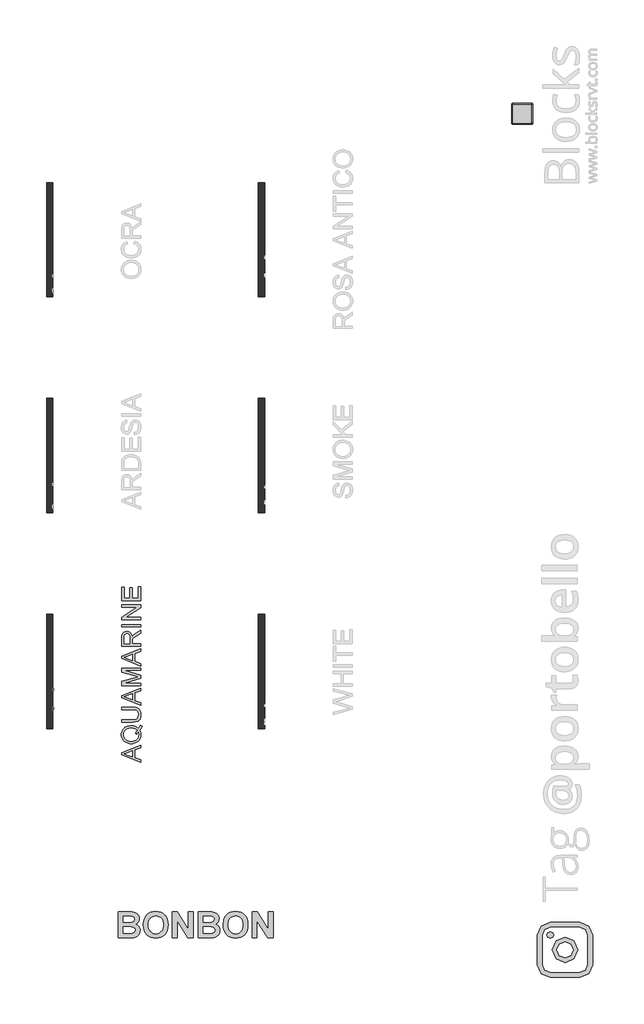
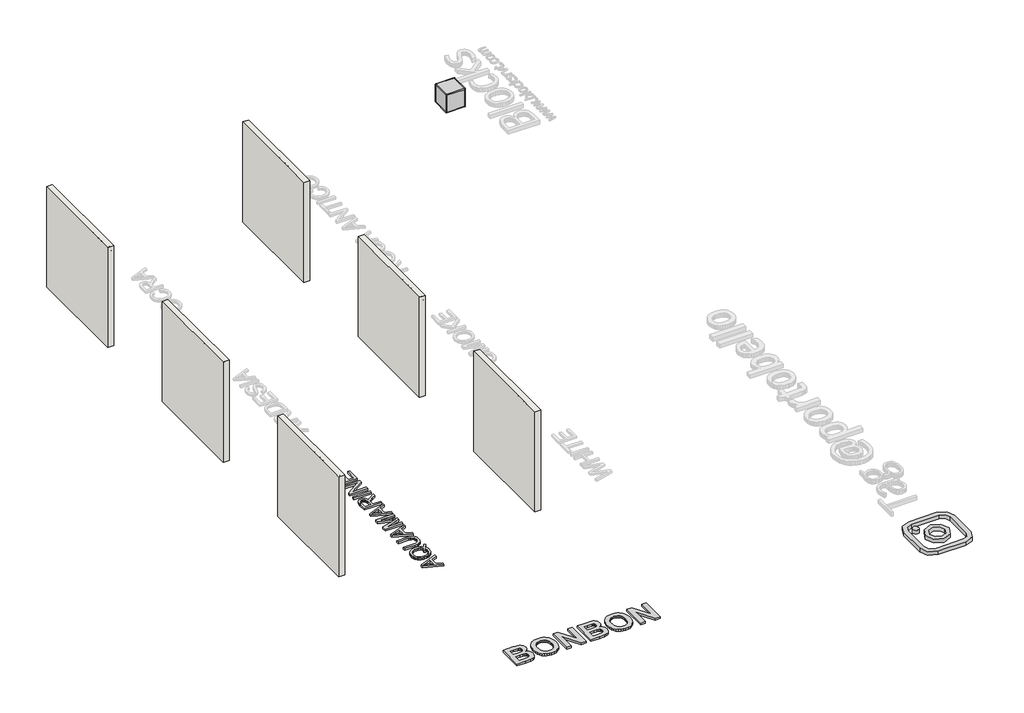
# One storey, part 1 of 6: 6 walls, 5 proxies, 1 furniture element.
"""IFC4 building model written with IfcOpenShell, lengths in millimetres."""

from ifc_helpers import new_model, si_unit, frame, origin, origin_with_axes, place, context, project, spatial, polyline, outline, extrude, transform, mapped, element, save
from components import generic_models_d67f6705, branco_22256ad2

model = new_model("IFC4")

# Units and contexts
model_context = context("Model", 3, world=origin())
ifc_project = project(units=[si_unit("LENGTHUNIT", "METRE", prefix="MILLI")], contexts=[model_context])

# Site, building, storey
site = spatial("IfcSite", under=ifc_project)
building = spatial("IfcBuilding", under=site)
storey = spatial("IfcBuildingStorey", under=building, Name="PORTOBELLO - SHOWROOM", Elevation=0.0)

# Proxies
placement = place(None, origin())
generic_models_shape = generic_models_d67f6705(model_context)
element("IfcBuildingElementProxy", 1, Name="Blks_Instagram1 : Único 2", ObjectType="Blks_Instagram1 : Único 2", at=placement, inside=storey, context=model_context, shape_type="MappedRepresentation", body=[
    mapped(generic_models_shape, transform((-8698.0576195, -6701.2406298, 0.0), x_axis=(-1.0, 0.0, 0.0), y_axis=(0.0, -1.0, 0.0), z_axis=(0.0, 0.0, 1.0))),
])
element("IfcBuildingElementProxy", 2, Name="10mm Arial", ObjectType="10mm Arial", at=placement, inside=storey, context=model_context, shape_type="SweptSolid", body=[
    extrude(outline(polyline([(-1383.7621469, 2478.2261649), (-1343.6630094, 2578.6824751), (-1332.9699061, 2578.6824751), (-1292.8707686, 2478.2261649), (-1306.1390459, 2478.2261649), (-1317.6414896, 2509.6187619), (-1359.0159513, 2509.6187619), (-1370.4938696, 2478.2261649), (-1383.7621469, 2478.2261649)]), holes=[polyline([(-1354.4051637, 2522.1758006), (-1322.2277518, 2522.1758006), (-1331.2776489, 2546.8729452), (-1338.3164578, 2566.1254363), (-1344.5704517, 2549.0311863), (-1354.4051637, 2522.1758006)])]), frame((-20793.2092306, 0.0, 0.0), z_axis=(1.0, 0.0, 0.0), x_axis=(0.0, 1.0, 0.0)), (0.0, 0.0, 1.0), 20.0),
    extrude(outline(polyline([(-1235.5057028, 2449.9728277), (-1235.5057028, 2488.2816061), (-1243.4764794, 2479.967473), (-1254.3657865, 2476.6565351), (-1266.3035572, 2479.2715629), (-1276.4632316, 2487.1166465), (-1283.4162013, 2499.5173354), (-1285.7338579, 2515.7991794), (-1282.055038, 2535.6893326), (-1271.3864601, 2549.0311863), (-1256.0580436, 2553.5683975), (-1244.3839217, 2550.0489931), (-1235.5057028, 2539.4907799), (-1235.5057028, 2551.9987677), (-1222.9486641, 2551.9987677), (-1222.9486641, 2449.9728277), (-1235.5057028, 2449.9728277)]), holes=[polyline([(-1273.1768191, 2515.1124663), (-1271.7635391, 2503.7817009), (-1267.5236991, 2495.688297), (-1261.3095591, 2490.8322546), (-1253.973379, 2489.2135739), (-1246.9437672, 2490.7525469), (-1240.9626191, 2495.3694659), (-1236.8699319, 2503.131776), (-1235.5057028, 2514.1069222), (-1236.9435083, 2525.8392922), (-1241.2569247, 2534.2545928), (-1247.5078529, 2539.3221673), (-1254.7581939, 2541.0113588), (-1261.8736448, 2539.4386632), (-1267.8180047, 2534.7205767), (-1271.8371155, 2526.673158), (-1273.1768191, 2515.1124663)])]), frame((-20793.2092306, 0.0, 0.0), z_axis=(1.0, 0.0, 0.0), x_axis=(0.0, 1.0, 0.0)), (0.0, 0.0, 1.0), 20.0),
    extrude(outline(polyline([(-1157.0242105, 2478.2261649), (-1157.0242105, 2490.905831), (-1166.8589225, 2480.2188591), (-1179.6857414, 2476.6565351), (-1191.4947535, 2479.1581327), (-1199.6372083, 2485.436652), (-1203.3773419, 2494.6827529), (-1204.1131059, 2506.3568748), (-1204.1131059, 2551.9987677), (-1191.5560671, 2551.9987677), (-1191.5560671, 2512.2675122), (-1190.7957777, 2499.4652188), (-1185.8293708, 2491.9481634), (-1176.4729053, 2489.2135739), (-1165.9882685, 2492.009477), (-1159.0598242, 2499.6246343), (-1157.0242105, 2513.6164129), (-1157.0242105, 2551.9987677), (-1144.4671718, 2551.9987677), (-1144.4671718, 2478.2261649), (-1157.0242105, 2478.2261649)])), frame((-20793.2092306, 0.0, 0.0), z_axis=(1.0, 0.0, 0.0), x_axis=(0.0, 1.0, 0.0)), (0.0, 0.0, 1.0), 20.0),
    extrude(outline(polyline([(-1080.1123481, 2487.643944), (-1092.2892421, 2479.1336072), (-1105.7414604, 2476.6565351), (-1116.2352943, 2478.1464572), (-1123.9761446, 2482.6162234), (-1128.7494135, 2489.4036462), (-1130.3405031, 2497.846538), (-1127.9370074, 2507.7793519), (-1121.6216999, 2514.989839), (-1112.8293202, 2519.1101173), (-1101.9645386, 2520.9985782), (-1080.1859245, 2525.3150603), (-1080.1123481, 2528.1109635), (-1083.5704388, 2537.3815898), (-1097.4518528, 2541.0113588), (-1110.1560443, 2538.5956003), (-1116.2138345, 2530.0239499), (-1128.7708733, 2531.5935797), (-1123.3384825, 2543.8563129), (-1112.4001245, 2551.0422745), (-1095.833172, 2553.5683975), (-1080.6151201, 2551.3365801), (-1072.0189442, 2545.7325111), (-1068.168446, 2537.2099115), (-1067.5553093, 2526.2225026), (-1067.5553093, 2510.5997805), (-1066.9176472, 2488.7843782), (-1064.4160496, 2478.2261649), (-1076.9730884, 2478.2261649), (-1080.1123481, 2487.643944)]), holes=[polyline([(-1080.1123481, 2512.7580215), (-1100.3703833, 2508.9075233), (-1111.1738512, 2506.8719096), (-1116.0666817, 2503.5609717), (-1117.7834644, 2498.7294548), (-1114.0433308, 2491.9359006), (-1103.0681846, 2489.2135739), (-1090.363993, 2492.2179435), (-1082.1724872, 2499.4897443), (-1080.1859245, 2509.2018289), (-1080.1123481, 2512.7580215)])]), frame((-20793.2092306, 0.0, 0.0), z_axis=(1.0, 0.0, 0.0), x_axis=(0.0, 1.0, 0.0)), (0.0, 0.0, 1.0), 20.0),
    extrude(outline(polyline([(-1050.289381, 2478.2261649), (-1050.289381, 2551.9987677), (-1037.7323422, 2551.9987677), (-1037.7323422, 2539.8586619), (-1029.0993781, 2549.8037385), (-1016.8121194, 2553.5683975), (-1004.2305552, 2549.7301621), (-997.3143737, 2538.9757451), (-987.5164499, 2549.9202344), (-975.1433521, 2553.5683975), (-965.7041133, 2552.0508843), (-958.7235524, 2547.4983446), (-954.410136, 2539.7881511), (-952.9723305, 2528.7976765), (-952.9723305, 2478.2261649), (-965.5293693, 2478.2261649), (-965.5293693, 2523.4020739), (-966.694329, 2533.8867108), (-970.9127092, 2539.0493215), (-978.0864081, 2541.0113588), (-990.4349804, 2535.9836382), (-994.1229974, 2529.44147), (-995.3523364, 2519.8704068), (-995.3523364, 2478.2261649), (-1007.9093752, 2478.2261649), (-1007.9093752, 2524.8000255), (-1010.8156429, 2536.9646568), (-1020.3437866, 2541.0113588), (-1029.6389383, 2538.3135575), (-1035.8193559, 2530.4163573), (-1037.7323422, 2515.4312974), (-1037.7323422, 2478.2261649), (-1050.289381, 2478.2261649)])), frame((-20793.2092306, 0.0, 0.0), z_axis=(1.0, 0.0, 0.0), x_axis=(0.0, 1.0, 0.0)), (0.0, 0.0, 1.0), 20.0),
    extrude(outline(polyline([(-887.047877, 2487.643944), (-899.224771, 2479.1336072), (-912.6769893, 2476.6565351), (-923.1708232, 2478.1464572), (-930.9116736, 2482.6162234), (-935.6849424, 2489.4036462), (-937.2760321, 2497.846538), (-934.8725364, 2507.7793519), (-928.5572288, 2514.989839), (-919.7648491, 2519.1101173), (-908.9000675, 2520.9985782), (-887.1214534, 2525.3150603), (-887.047877, 2528.1109635), (-890.5059678, 2537.3815898), (-904.3873817, 2541.0113588), (-917.0915733, 2538.5956003), (-923.1493635, 2530.0239499), (-935.7064022, 2531.5935797), (-930.2740114, 2543.8563129), (-919.3356534, 2551.0422745), (-902.7687009, 2553.5683975), (-887.5506491, 2551.3365801), (-878.9544731, 2545.7325111), (-875.1039749, 2537.2099115), (-874.4908382, 2526.2225026), (-874.4908382, 2510.5997805), (-873.8531761, 2488.7843782), (-871.3515785, 2478.2261649), (-883.9086173, 2478.2261649), (-887.047877, 2487.643944)]), holes=[polyline([(-887.047877, 2512.7580215), (-907.3059122, 2508.9075233), (-918.1093801, 2506.8719096), (-923.0022107, 2503.5609717), (-924.7189933, 2498.7294548), (-920.9788597, 2491.9359006), (-910.0037135, 2489.2135739), (-897.2995219, 2492.2179435), (-889.1080162, 2499.4897443), (-887.1214534, 2509.2018289), (-887.047877, 2512.7580215)])]), frame((-20793.2092306, 0.0, 0.0), z_axis=(1.0, 0.0, 0.0), x_axis=(0.0, 1.0, 0.0)), (0.0, 0.0, 1.0), 20.0),
    extrude(outline(polyline([(-857.2249099, 2478.2261649), (-857.2249099, 2551.9987677), (-846.237501, 2551.9987677), (-846.237501, 2541.0849352), (-838.4384027, 2551.1403764), (-830.5902535, 2553.5683975), (-817.9841638, 2549.6933739), (-822.1780185, 2538.4361848), (-831.0071864, 2541.0113588), (-838.1073089, 2538.5342867), (-842.6322575, 2531.6671561), (-844.6678712, 2517.0009272), (-844.6678712, 2478.2261649), (-857.2249099, 2478.2261649)])), frame((-20793.2092306, 0.0, 0.0), z_axis=(1.0, 0.0, 0.0), x_axis=(0.0, 1.0, 0.0)), (0.0, 0.0, 1.0), 20.0),
    extrude(outline(polyline([(-20773.2092306, -797.5789758), (-20773.2092306, -810.1360145), (-20793.2092306, -810.1360145), (-20793.2092306, -797.5789758), (-20773.2092306, -797.5789758)])), frame((0.0, 0.0, 2566.1254363), z_axis=(0.0, 0.0, 1.0), x_axis=(1.0, 0.0, 0.0)), (0.0, 0.0, 1.0), 12.5570388),
    extrude(outline(polyline([(-20773.2092306, -797.5789758), (-20773.2092306, -810.1360145), (-20793.2092306, -810.1360145), (-20793.2092306, -797.5789758), (-20773.2092306, -797.5789758)])), frame((0.0, 0.0, 2478.2261649), z_axis=(0.0, 0.0, 1.0), x_axis=(1.0, 0.0, 0.0)), (0.0, 0.0, 1.0), 73.7726028),
    extrude(outline(polyline([(-778.7434176, 2478.2261649), (-778.7434176, 2551.9987677), (-766.1863789, 2551.9987677), (-766.1863789, 2541.6980718), (-756.5846588, 2550.6008161), (-743.475797, 2553.5683975), (-731.617734, 2551.1771646), (-723.5243301, 2544.8986452), (-719.7596711, 2535.6648071), (-719.0974835, 2523.5247013), (-719.0974835, 2478.2261649), (-731.6545222, 2478.2261649), (-731.6545222, 2521.8324441), (-733.1015248, 2532.9424804), (-738.2150845, 2538.8163295), (-746.8357859, 2541.0113588), (-760.4596825, 2536.08174), (-764.7547048, 2528.938698), (-766.1863789, 2517.3688092), (-766.1863789, 2478.2261649), (-778.7434176, 2478.2261649)])), frame((-20793.2092306, 0.0, 0.0), z_axis=(1.0, 0.0, 0.0), x_axis=(0.0, 1.0, 0.0)), (0.0, 0.0, 1.0), 20.0),
    extrude(outline(polyline([(-650.180923, 2500.2009828), (-637.8691389, 2498.6313529), (-642.3051827, 2489.3545953), (-649.3838454, 2482.4200197), (-658.9457116, 2478.0974062), (-670.8313657, 2476.6565351), (-685.5650396, 2479.1428042), (-696.9019364, 2486.6016117), (-704.1308176, 2498.5485795), (-706.5404447, 2514.4993297), (-704.1062922, 2530.9865744), (-696.8038346, 2543.3167526), (-685.6202219, 2551.0054863), (-671.5426042, 2553.5683975), (-657.9033793, 2551.0116177), (-647.0048752, 2543.3412781), (-639.8587674, 2531.0356253), (-637.4767315, 2514.5729061), (-637.5503079, 2511.1883917), (-693.9834059, 2511.1883917), (-691.8098365, 2501.7890067), (-686.7606561, 2494.8789566), (-679.4735269, 2490.6299195), (-670.586111, 2489.2135739), (-658.2743269, 2491.8377988), (-650.180923, 2500.2009828)]), holes=[polyline([(-693.9834059, 2523.7454305), (-650.0337702, 2523.7454305), (-655.0614908, 2535.1252469), (-662.3823425, 2539.5398308), (-671.5916552, 2541.0113588), (-687.0549617, 2536.314732), (-691.9202011, 2530.8240932), (-693.9834059, 2523.7454305)])]), frame((-20793.2092306, 0.0, 0.0), z_axis=(1.0, 0.0, 0.0), x_axis=(0.0, 1.0, 0.0)), (0.0, 0.0, 1.0), 20.0),
])
element("IfcBuildingElementProxy", 3, Name="10mm Arial Narrow", ObjectType="10mm Arial Narrow", at=placement, inside=storey, context=model_context, shape_type="SweptSolid", body=[
    extrude(outline(polyline([(-579.9284403, 2478.2261649), (-579.9284403, 2578.9447687), (-548.6315556, 2578.9447687), (-532.3358541, 2577.066448), (-520.862868, 2567.5860048), (-516.5731896, 2550.566896), (-518.359498, 2538.4910704), (-523.7184232, 2528.8646767), (-533.462212, 2522.5634182), (-548.4031112, 2520.4629988), (-570.1814787, 2520.4629988), (-570.1814787, 2478.2261649), (-579.9284403, 2478.2261649)]), holes=[polyline([(-570.1814787, 2531.834454), (-547.2101237, 2531.834454), (-531.3459283, 2536.3652682), (-526.3201512, 2550.033859), (-528.7949657, 2560.1996354), (-534.7725945, 2565.9995852), (-547.4385681, 2567.5733134), (-570.1814787, 2567.5733134), (-570.1814787, 2531.834454)])]), frame((-20793.2092306, 0.0, 0.0), z_axis=(1.0, 0.0, 0.0), x_axis=(0.0, 1.0, 0.0)), (0.0, 0.0, 1.0), 20.0),
    extrude(outline(polyline([(-508.4507215, 2514.7772711), (-506.4962527, 2531.3680467), (-500.632846, 2543.3201315), (-491.7742793, 2550.5446861), (-480.8343302, 2552.9528709), (-470.0212946, 2550.5446861), (-461.1373452, 2543.3201315), (-455.1977904, 2531.558417), (-453.2179388, 2515.5387525), (-455.1628892, 2498.3768659), (-460.9977403, 2486.2344108), (-469.8467884, 2479.0098562), (-480.8343302, 2476.6016713), (-491.6949583, 2479.0162019), (-500.5693893, 2486.2597935), (-506.4803885, 2498.218224), (-508.4507215, 2514.7772711)]), holes=[polyline([(-498.7037599, 2514.8026538), (-497.399723, 2502.2509024), (-493.4876124, 2493.3796444), (-487.6464157, 2488.1063858), (-480.5551203, 2486.348633), (-473.8350472, 2488.12225), (-468.1429739, 2493.4431012), (-464.2594188, 2502.3302234), (-462.9649005, 2514.8026538), (-464.2689373, 2527.3163312), (-468.1810479, 2536.1748979), (-474.0222447, 2541.4481564), (-481.11354, 2543.2059093), (-487.8812058, 2541.4386379), (-493.5637606, 2536.1368238), (-497.41876, 2527.2687386), (-498.7037599, 2514.8026538)])]), frame((-20793.2092306, 0.0, 0.0), z_axis=(1.0, 0.0, 0.0), x_axis=(0.0, 1.0, 0.0)), (0.0, 0.0, 1.0), 20.0),
    extrude(outline(polyline([(-381.74022, 2486.348633), (-380.1157264, 2476.6016713), (-387.4767131, 2476.6016713), (-395.7514774, 2478.7211278), (-400.0665386, 2484.5210777), (-401.2341433, 2499.1669029), (-401.2341433, 2541.5814157), (-409.3566114, 2541.5814157), (-409.3566114, 2544.8304029), (-410.981105, 2539.9569221), (-418.5451534, 2541.5814157), (-424.624313, 2539.2588975), (-428.4951767, 2532.7736144), (-430.4750283, 2517.3663078), (-430.4750283, 2478.2261649), (-440.22199, 2478.2261649), (-440.22199, 2551.3283773), (-430.4750283, 2551.3283773), (-430.4750283, 2541.6321811), (-424.230881, 2550.7191922), (-417.8344374, 2552.9528709), (-409.3566114, 2551.3283773), (-401.2341433, 2551.3283773), (-401.2341433, 2567.5733134), (-391.4871817, 2575.6957815), (-391.4871817, 2551.3283773), (-381.74022, 2551.3283773), (-381.74022, 2541.5814157), (-391.4871817, 2541.5814157), (-391.4871817, 2496.9332242), (-390.6241695, 2488.9376697), (-386.0045158, 2486.348633), (-381.74022, 2486.348633)])), frame((-20793.2092306, 0.0, 0.0), z_axis=(1.0, 0.0, 0.0), x_axis=(0.0, 1.0, 0.0)), (0.0, 0.0, 1.0), 20.0),
    extrude(outline(polyline([(-375.2422456, 2514.7772711), (-373.2877767, 2531.3680467), (-367.4243701, 2543.3201315), (-358.5658034, 2550.5446861), (-347.6258542, 2552.9528709), (-336.8128187, 2550.5446861), (-327.9288692, 2543.3201315), (-321.9893145, 2531.558417), (-320.0094629, 2515.5387525), (-321.9544133, 2498.3768659), (-327.7892643, 2486.2344108), (-336.6383125, 2479.0098562), (-347.6258542, 2476.6016713), (-358.4864824, 2479.0162019), (-367.3609133, 2486.2597935), (-373.2719125, 2498.218224), (-375.2422456, 2514.7772711)]), holes=[polyline([(-365.4952839, 2514.8026538), (-364.1912471, 2502.2509024), (-360.2791365, 2493.3796444), (-354.4379398, 2488.1063858), (-347.3466444, 2486.348633), (-340.6265712, 2488.12225), (-334.9344979, 2493.4431012), (-331.0509429, 2502.3302234), (-329.7564245, 2514.8026538), (-331.0604614, 2527.3163312), (-334.972572, 2536.1748979), (-340.8137687, 2541.4481564), (-347.9050641, 2543.2059093), (-354.6727298, 2541.4386379), (-360.3552846, 2536.1368238), (-364.2102841, 2527.2687386), (-365.4952839, 2514.8026538)])]), frame((-20793.2092306, 0.0, 0.0), z_axis=(1.0, 0.0, 0.0), x_axis=(0.0, 1.0, 0.0)), (0.0, 0.0, 1.0), 20.0),
    extrude(outline(polyline([(-297.2665524, 2478.2261649), (-307.013514, 2478.2261649), (-307.013514, 2578.9447687), (-297.2665524, 2578.9447687), (-297.2665524, 2543.5358846), (-289.8674916, 2550.6176614), (-280.6662583, 2552.9528709), (-267.7845316, 2548.752032), (-258.5071502, 2536.0226016), (-255.0297185, 2515.3356908), (-256.9619775, 2498.8813473), (-262.7587545, 2486.6786082), (-271.1318769, 2479.1209056), (-280.7931719, 2476.6016713), (-290.1340101, 2479.2160907), (-297.2665524, 2486.9832008), (-297.2665524, 2478.2261649)]), holes=[polyline([(-297.2665524, 2515.3356908), (-295.1851699, 2498.0881376), (-289.2963806, 2489.3564844), (-280.8439373, 2486.348633), (-274.9012097, 2488.1381142), (-269.6628524, 2493.5065579), (-264.7766802, 2514.9295674), (-269.4851734, 2536.3652682), (-274.7298764, 2541.495749), (-281.046999, 2543.2059093), (-287.0246278, 2541.4164281), (-292.3169234, 2536.0479843), (-297.2665524, 2515.3356908)])]), frame((-20793.2092306, 0.0, 0.0), z_axis=(1.0, 0.0, 0.0), x_axis=(0.0, 1.0, 0.0)), (0.0, 0.0, 1.0), 20.0),
    extrude(outline(polyline([(-203.0459231, 2500.9690755), (-193.2989614, 2499.3445819), (-196.9984918, 2489.4580153), (-202.8174786, 2482.3381644), (-210.5211319, 2478.0357946), (-219.8746615, 2476.6016713), (-231.4682155, 2479.0162019), (-240.6123378, 2486.2597935), (-246.5518925, 2498.0659277), (-248.5317441, 2514.168086), (-246.542374, 2530.8350097), (-240.5742637, 2543.0155389), (-231.5602279, 2550.4685379), (-220.4330812, 2552.9528709), (-209.750132, 2550.5542046), (-201.0026147, 2543.3582056), (-195.1677636, 2531.618701), (-193.2228133, 2515.5895179), (-193.2989614, 2512.3405307), (-238.7847825, 2512.3405307), (-232.7817709, 2492.8973728), (-226.8517347, 2487.9858179), (-219.747748, 2486.348633), (-209.5692802, 2490.0037436), (-203.0459231, 2500.9690755)]), holes=[polyline([(-238.1248319, 2522.0874924), (-203.0459231, 2522.0874924), (-207.3102188, 2536.3525769), (-213.1355513, 2541.4925762), (-220.3569331, 2543.2059093), (-232.5660179, 2537.4947989), (-238.1248319, 2522.0874924)])]), frame((-20793.2092306, 0.0, 0.0), z_axis=(1.0, 0.0, 0.0), x_axis=(0.0, 1.0, 0.0)), (0.0, 0.0, 1.0), 20.0),
    extrude(outline(polyline([(-20773.2092306, -170.5560509), (-20773.2092306, -180.3030125), (-20793.2092306, -180.3030125), (-20793.2092306, -170.5560509), (-20773.2092306, -170.5560509)])), frame((0.0, 0.0, 2478.2261649), z_axis=(0.0, 0.0, 1.0), x_axis=(1.0, 0.0, 0.0)), (0.0, 0.0, 1.0), 100.7186038),
    extrude(outline(polyline([(-20773.2092306, -144.5641531), (-20773.2092306, -154.3111148), (-20793.2092306, -154.3111148), (-20793.2092306, -144.5641531), (-20773.2092306, -144.5641531)])), frame((0.0, 0.0, 2478.2261649), z_axis=(0.0, 0.0, 1.0), x_axis=(1.0, 0.0, 0.0)), (0.0, 0.0, 1.0), 100.7186038),
    extrude(outline(polyline([(-133.1926979, 2514.7772711), (-131.238229, 2531.3680467), (-125.3748224, 2543.3201315), (-116.5162557, 2550.5446861), (-105.5763065, 2552.9528709), (-94.7632709, 2550.5446861), (-85.8793215, 2543.3201315), (-79.9397668, 2531.558417), (-77.9599152, 2515.5387525), (-79.9048655, 2498.3768659), (-85.7397166, 2486.2344108), (-94.5887648, 2479.0098562), (-105.5763065, 2476.6016713), (-116.4369347, 2479.0162019), (-125.3113656, 2486.2597935), (-131.2223648, 2498.218224), (-133.1926979, 2514.7772711)]), holes=[polyline([(-123.4457362, 2514.8026538), (-122.1416994, 2502.2509024), (-118.2295888, 2493.3796444), (-112.388392, 2488.1063858), (-105.2970967, 2486.348633), (-98.5770235, 2488.12225), (-92.8849502, 2493.4431012), (-89.0013952, 2502.3302234), (-87.7068768, 2514.8026538), (-89.0109137, 2527.3163312), (-92.9230243, 2536.1748979), (-98.764221, 2541.4481564), (-105.8555164, 2543.2059093), (-112.6231821, 2541.4386379), (-118.3057369, 2536.1368238), (-122.1607364, 2527.2687386), (-123.4457362, 2514.8026538)])]), frame((-20793.2092306, 0.0, 0.0), z_axis=(1.0, 0.0, 0.0), x_axis=(0.0, 1.0, 0.0)), (0.0, 0.0, 1.0), 20.0),
])
element("IfcBuildingElementProxy", 4, Name="450mm Arial", ObjectType="450mm Arial", at=placement, inside=storey, context=model_context, shape_type="SweptSolid", body=[
    extrude(outline(polyline([(-18720.1829319, -2273.5938218), (-19169.8390747, -2094.1046144), (-19169.8390747, -2046.2408257), (-18720.1829319, -1866.7516183), (-18720.1829319, -1926.1422368), (-18860.7004765, -1977.6287434), (-18860.7004765, -2162.826476), (-18720.1829319, -2214.2032033), (-18720.1829319, -2273.5938218)]), holes=[polyline([(-18916.9074944, -2142.1879617), (-18916.9074944, -1998.1574784), (-19027.4552815, -2038.6660518), (-19113.6320569, -2070.17272), (-19037.1158627, -2098.1664496), (-18916.9074944, -2142.1879617)])]), origin_with_axes(), (0.0, 0.0, 1.0), 50.0),
    extrude(outline(polyline([(-18774.0845838, -1468.9113201), (-18746.3378577, -1432.6018061), (-18727.2088091, -1399.2014444), (-18686.0415597, -1414.3509922), (-18707.5308639, -1460.705315), (-18738.6258596, -1506.8949689), (-18727.4832575, -1532.2471333), (-18719.5242559, -1558.9029273), (-18714.748855, -1586.8623508), (-18713.1570547, -1616.125404), (-18714.9924279, -1645.5668485), (-18720.4985475, -1673.622329), (-18729.6754135, -1700.2918454), (-18742.5230259, -1725.5753977), (-18758.6948937, -1748.7491285), (-18777.8445259, -1769.0891803), (-18799.9719225, -1786.5955531), (-18825.0770834, -1801.2682469), (-18852.5116245, -1812.8671195), (-18881.6271617, -1821.1520284), (-18912.4236948, -1826.1229738), (-18944.901224, -1827.7799556), (-18977.3101411, -1826.1264044), (-19008.230176, -1821.1657508), (-19037.6613287, -1812.8979949), (-19065.6035992, -1801.3231366), (-19091.1787529, -1786.6950406), (-19113.5085551, -1769.2675717), (-19132.5930058, -1749.0407299), (-19148.432105, -1726.014515), (-19160.8714756, -1700.8613256), (-19169.7567402, -1674.2535601), (-19175.087899, -1646.1912184), (-19176.864952, -1616.6743006), (-19175.0467318, -1586.9069487), (-19169.5920712, -1558.6422014), (-19160.5009703, -1531.8800587), (-19147.773429, -1506.6205205), (-19131.7730914, -1483.5702915), (-19112.8636016, -1463.4360759), (-19091.0449594, -1446.2178739), (-19066.3171649, -1431.9156853), (-19039.2977269, -1420.6770262), (-19010.604154, -1412.6494126), (-18980.2364464, -1407.8328444), (-18948.1946039, -1406.2273217), (-18896.2964249, -1410.1244879), (-18849.942102, -1421.8159868), (-18809.1865251, -1441.3841527), (-18774.0845838, -1468.9113201)]), holes=[polyline([(-18848.8443087, -1600.6465182), (-18830.9777225, -1553.3865159), (-18806.1401487, -1515.2381981), (-18832.21274, -1492.13651), (-18864.1036358, -1475.6353042), (-18901.8128363, -1465.7345807), (-18945.3403413, -1462.4343395), (-18994.8096527, -1467.0999611), (-19037.6098696, -1481.0968259), (-19072.6569213, -1504.0818735), (-19098.8667368, -1535.7120435), (-19115.2101348, -1573.8466388), (-19120.6579341, -1616.3449626), (-19117.903159, -1648.4005275), (-19109.6388337, -1677.6018297), (-19095.8649582, -1703.9488693), (-19076.5815324, -1727.4416463), (-19051.8297237, -1746.7490863), (-19021.6506993, -1760.5401149), (-18986.0444592, -1768.814732), (-18945.0110033, -1771.5729377), (-18905.047896, -1768.8456074), (-18870.0179973, -1760.6636166), (-18839.9213074, -1747.0269652), (-18814.7578262, -1727.9356533), (-18794.898059, -1704.6041147), (-18780.712511, -1678.2467833), (-18772.2011821, -1648.863659), (-18769.3640725, -1616.4547419), (-18772.24578, -1585.2499669), (-18780.8909024, -1555.9663302), (-18795.8483363, -1584.7559599), (-18805.8108107, -1615.13739), (-18848.8443087, -1600.6465182)])]), origin_with_axes(), (0.0, 0.0, 1.0), 50.0),
    extrude(outline(polyline([(-19169.8390747, -1026.8299512), (-19169.8390747, -970.6229333), (-18910.4305138, -970.6229333), (-18849.6813761, -974.4377651), (-18802.9016584, -985.8822604), (-18783.9304176, -995.0419734), (-18766.8117031, -1007.2617853), (-18751.5455147, -1022.541696), (-18738.1318527, -1040.8817056), (-18727.2053785, -1062.3023977), (-18719.4007542, -1086.824356), (-18714.7179796, -1114.4475803), (-18713.1570547, -1145.1720708), (-18718.5911316, -1202.2436009), (-18725.3837278, -1226.4876802), (-18734.8933624, -1247.8706356), (-18746.9793807, -1266.3958979), (-18761.5011279, -1282.0668975), (-18778.458604, -1294.8836344), (-18797.8518091, -1304.8461088), (-18846.6075548, -1317.6491234), (-18910.4305138, -1321.9167949), (-19169.8390747, -1321.9167949), (-19169.8390747, -1265.709777), (-18912.4065418, -1265.709777), (-18861.8943268, -1262.9378489), (-18826.7237734, -1254.6220645), (-18802.3664841, -1239.5548512), (-18784.2940616, -1216.5286364), (-18773.0965698, -1186.5039892), (-18769.3640725, -1150.4414787), (-18771.2097375, -1119.4631235), (-18776.7467326, -1093.2738917), (-18785.9750577, -1071.8737832), (-18798.8947128, -1055.2627981), (-18817.0631922, -1042.8234276), (-18842.0379901, -1033.9381629), (-18873.8191067, -1028.6070041), (-18912.4065418, -1026.8299512), (-19169.8390747, -1026.8299512)])), origin_with_axes(), (0.0, 0.0, 1.0), 50.0),
    extrude(outline(polyline([(-18720.1829319, -924.6253933), (-19169.8390747, -745.1361859), (-19169.8390747, -697.2723973), (-18720.1829319, -517.7831899), (-18720.1829319, -577.1738083), (-18860.7004765, -628.6603149), (-18860.7004765, -813.8580476), (-18720.1829319, -865.2347748), (-18720.1829319, -924.6253933)]), holes=[polyline([(-18916.9074944, -793.2195332), (-18916.9074944, -649.18905), (-19027.4552815, -689.6976234), (-19113.6320569, -721.2042916), (-19037.1158627, -749.1980212), (-18916.9074944, -793.2195332)])]), origin_with_axes(), (0.0, 0.0, 1.0), 50.0),
    extrude(outline(polyline([(-18720.1829319, -457.7338954), (-19169.8390747, -457.7338954), (-19169.8390747, -361.0183041), (-18852.906144, -269.0232241), (-18786.7092069, -250.4705171), (-18858.3951106, -230.3808994), (-19169.8390747, -139.92273), (-19169.8390747, -43.2071387), (-18720.1829319, -43.2071387), (-18720.1829319, -99.4141566), (-19113.6320569, -99.4141566), (-18720.1829319, -212.377089), (-18720.1829319, -288.5639452), (-19113.6320569, -401.5268776), (-18720.1829319, -401.5268776), (-18720.1829319, -457.7338954)])), origin_with_axes(), (0.0, 0.0, 1.0), 50.0),
    extrude(outline(polyline([(-18720.1829319, 2.7904013), (-19169.8390747, 182.2796087), (-19169.8390747, 230.1433973), (-18720.1829319, 409.6326047), (-18720.1829319, 350.2419862), (-18860.7004765, 298.7554796), (-18860.7004765, 113.557747), (-18720.1829319, 62.1810197), (-18720.1829319, 2.7904013)]), holes=[polyline([(-18916.9074944, 134.1962613), (-18916.9074944, 278.2267446), (-19027.4552815, 237.7181712), (-19113.6320569, 206.211503), (-19037.1158627, 178.2177734), (-18916.9074944, 134.1962613)])]), origin_with_axes(), (0.0, 0.0, 1.0), 50.0),
    extrude(outline(polyline([(-18720.1829319, 469.6818992), (-19169.8390747, 469.6818992), (-19169.8390747, 663.4424197), (-19166.8064207, 715.5189902), (-19157.7084586, 753.406582), (-19140.9122208, 781.0984185), (-19114.7847399, 802.5877227), (-19082.3861146, 816.3787512), (-19046.7764438, 820.9757607), (-19023.6816169, 819.0717754), (-19002.4804835, 813.3598196), (-18983.1730435, 803.8398932), (-18965.759297, 790.5119962), (-18950.7950019, 773.2045984), (-18938.8359159, 751.7461697), (-18929.8820392, 726.1367099), (-18923.9333716, 696.3762192), (-18899.891698, 728.3220047), (-18842.0379901, 773.8804274), (-18720.1829319, 848.859711), (-18720.1829319, 783.5410086), (-18813.3855846, 725.0286248), (-18875.081569, 682.7635821), (-18893.071657, 667.0514152), (-18904.2279816, 653.0682728), (-18914.9314664, 626.3370056), (-18916.9074944, 593.732544), (-18916.9074944, 525.888917), (-18720.1829319, 525.888917), (-18720.1829319, 469.6818992)]), holes=[polyline([(-18973.1145122, 525.888917), (-18973.1145122, 651.6960312), (-18975.1042626, 687.8271537), (-18981.0735138, 715.8620506), (-18991.4202158, 736.9671271), (-19006.5423188, 752.3087887), (-19024.8342999, 761.6537543), (-19044.6906365, 764.7687429), (-19059.0648678, 763.2832913), (-19072.1080246, 758.8269365), (-19094.2011152, 741.0015176), (-19102.7021522, 727.392311), (-19108.7743214, 710.3319168), (-19113.6320569, 665.857565), (-19113.6320569, 525.888917), (-18973.1145122, 525.888917)])]), origin_with_axes(), (0.0, 0.0, 1.0), 50.0),
    extrude(outline(polyline([(-18720.1829319, 926.3639192), (-19169.8390747, 926.3639192), (-19169.8390747, 982.5709371), (-18720.1829319, 982.5709371), (-18720.1829319, 926.3639192)])), origin_with_axes(), (0.0, 0.0, 1.0), 50.0),
    extrude(outline(polyline([(-18720.1829319, 1094.9849728), (-19169.8390747, 1094.9849728), (-19169.8390747, 1155.1440466), (-18813.6051432, 1390.0718165), (-19169.8390747, 1390.0718165), (-19169.8390747, 1446.2788343), (-18720.1829319, 1446.2788343), (-18720.1829319, 1386.1197605), (-19076.5266427, 1151.1919906), (-18720.1829319, 1151.1919906), (-18720.1829319, 1094.9849728)])), origin_with_axes(), (0.0, 0.0, 1.0), 50.0),
    extrude(outline(polyline([(-18720.1829319, 1544.6411156), (-19169.8390747, 1544.6411156), (-19169.8390747, 1867.8314682), (-19113.6320569, 1867.8314682), (-19113.6320569, 1600.8481334), (-18980.1403895, 1600.8481334), (-18980.1403895, 1853.7797138), (-18923.9333716, 1853.7797138), (-18923.9333716, 1600.8481334), (-18776.3899498, 1600.8481334), (-18776.3899498, 1874.8573455), (-18720.1829319, 1874.8573455), (-18720.1829319, 1544.6411156)])), origin_with_axes(), (0.0, 0.0, 1.0), 50.0),
])
element("IfcBuildingElementProxy", 5, Name="600mm Arial", ObjectType="600mm Arial", at=placement, inside=storey, context=model_context, shape_type="SweptSolid", body=[
    extrude(outline(polyline([(-19247.8166065, -5802.6016101), (-18996.5473644, -5802.6016101), (-18931.4716671, -5804.1198532), (-18885.3360533, -5808.6745827), (-18850.6062411, -5818.0687122), (-18819.747949, -5834.1051555), (-18793.2356279, -5856.6510664), (-18771.5437288, -5885.5735985), (-18757.0824628, -5919.6391792), (-18752.2620408, -5957.6142362), (-18758.0123867, -5998.9863621), (-18775.2634246, -6036.8665288), (-18802.3830429, -6068.4839425), (-18837.7391304, -6091.0678094), (-18813.9216909, -6100.6137633), (-18793.0268695, -6113.006423), (-18775.0546661, -6128.2457887), (-18760.0050808, -6146.3318603), (-18748.1153391, -6166.7047856), (-18739.6226665, -6188.8047125), (-18734.5270629, -6212.631641), (-18732.8285284, -6238.1855711), (-18737.7058845, -6279.1971144), (-18752.3379529, -6319.0320191), (-18775.4152489, -6354.3311725), (-18805.6282876, -6381.7354614), (-18843.337652, -6400.6945228), (-18888.9039247, -6410.6579935), (-19038.6026997, -6414.75725), (-19247.8166065, -6414.75725), (-19247.8166065, -5802.6016101)]), holes=[polyline([(-19131.2155322, -5909.4859281), (-19131.2155322, -6045.5205148), (-19042.2464833, -6045.5205148), (-18943.5606783, -6043.5467987), (-18912.4936277, -6036.449012), (-18888.8280125, -6022.4432189), (-18873.8543394, -6002.2126288), (-18868.863115, -5976.4404513), (-18873.17113, -5951.787978), (-18886.0951748, -5932.1836633), (-18907.4834253, -5918.4625408), (-18937.184057, -5911.4596442), (-19053.177834, -5909.4859281), (-19131.2155322, -5909.4859281)]), polyline([(-19131.2155322, -6152.4048329), (-19131.2155322, -6307.8729319), (-19007.934188, -6307.8729319), (-18916.5359501, -6304.2291484), (-18889.549178, -6296.0875695), (-18868.1039935, -6281.0759403), (-18854.0982004, -6259.4979094), (-18849.4296027, -6231.6571256), (-18853.0354302, -6207.5170594), (-18863.8529126, -6187.3244255), (-18881.4645332, -6171.5726527), (-18905.4527751, -6160.7551702), (-18948.5708807, -6154.4924172), (-19023.5720925, -6152.4048329), (-19131.2155322, -6152.4048329)])]), origin_with_axes(), (0.0, 0.0, 1.0), 50.0),
    extrude(outline(polyline([(-18655.0944789, -6112.4750379), (-18653.3769663, -6067.6678868), (-18648.2244286, -6026.6183875), (-18639.6368657, -5989.32654), (-18627.6142778, -5955.7923444), (-18603.3793214, -5911.5545344), (-18571.6670175, -5872.0612344), (-18534.5269943, -5839.7416332), (-18494.0088801, -5817.02492), (-18464.8396335, -5806.4636411), (-18433.5068904, -5798.9198704), (-18400.0106508, -5794.393608), (-18364.3509147, -5792.8848539), (-18301.2489336, -5798.1180482), (-18244.7892663, -5813.8176314), (-18194.9719128, -5839.9836032), (-18151.7968731, -5876.6159638), (-18133.1153655, -5898.5699971), (-18116.9247256, -5922.5665418), (-18092.0160489, -5976.6871658), (-18077.0708428, -6038.9778357), (-18072.0891075, -6109.4385516), (-18077.0328867, -6179.420072), (-18091.8642245, -6241.3359257), (-18116.5831209, -6295.1861126), (-18132.6504035, -6319.086581), (-18151.1895758, -6340.9706327), (-18194.0799449, -6377.5033586), (-18243.6505839, -6403.5981628), (-18299.9014928, -6419.2550454), (-18362.8326716, -6424.4740062), (-18426.4280817, -6419.2787679), (-18483.1534416, -6403.693053), (-18533.0087512, -6377.7168616), (-18575.9940105, -6341.3501935), (-18610.6004654, -6295.8740665), (-18635.3193618, -6242.5694982), (-18650.1506996, -6181.4364887), (-18655.0944789, -6112.4750379)]), holes=[polyline([(-18538.4934046, -6108.2239571), (-18535.3952396, -6156.6464247), (-18526.1007448, -6198.8251174), (-18510.6099201, -6234.760035), (-18488.9227656, -6264.4511777), (-18462.4626341, -6287.699276), (-18432.6528787, -6304.3050605), (-18399.4934993, -6314.2685312), (-18362.9844959, -6317.5896881), (-18326.5134486, -6314.2922538), (-18293.4679375, -6304.3999507), (-18263.8479624, -6287.912779), (-18237.6535235, -6264.8307385), (-18216.2320615, -6235.1538293), (-18200.9310172, -6198.8820515), (-18191.7503906, -6156.0154049), (-18188.6901817, -6106.5538896), (-18191.6697339, -6057.7803283), (-18200.6083905, -6015.6111247), (-18215.5061515, -5980.0462788), (-18236.3630168, -5951.0857906), (-18262.1541724, -5928.6347699), (-18291.8548041, -5912.5983266), (-18325.4649119, -5902.9764606), (-18362.9844959, -5899.769172), (-18400.5420359, -5903.0144167), (-18434.266012, -5912.7501509), (-18464.1564241, -5928.9763746), (-18490.2132723, -5951.6930878), (-18511.3358301, -5980.9477356), (-18526.4233715, -6016.7877631), (-18535.4758963, -6059.2131703), (-18538.4934046, -6108.2239571)])]), origin_with_axes(), (0.0, 0.0, 1.0), 50.0),
    extrude(outline(polyline([(-17974.9215456, -6414.75725), (-17974.9215456, -5802.6016101), (-17852.7029716, -5802.6016101), (-17595.9680541, -6214.6528022), (-17595.9680541, -5802.6016101), (-17479.3669799, -5802.6016101), (-17479.3669799, -6414.75725), (-17605.3811617, -6414.75725), (-17858.3204713, -6008.7790305), (-17858.3204713, -6414.75725), (-17974.9215456, -6414.75725)])), origin_with_axes(), (0.0, 0.0, 1.0), 50.0),
    extrude(outline(polyline([(-17362.7659056, -5802.6016101), (-17111.4966635, -5802.6016101), (-17046.4209663, -5804.1198532), (-17000.2853524, -5808.6745827), (-16965.5555402, -5818.0687122), (-16934.6972481, -5834.1051555), (-16908.184927, -5856.6510664), (-16886.493028, -5885.5735985), (-16872.0317619, -5919.6391792), (-16867.2113399, -5957.6142362), (-16872.9616858, -5998.9863621), (-16890.2127237, -6036.8665288), (-16917.332342, -6068.4839425), (-16952.6884295, -6091.0678094), (-16928.87099, -6100.6137633), (-16907.9761686, -6113.006423), (-16890.0039652, -6128.2457887), (-16874.95438, -6146.3318603), (-16863.0646383, -6166.7047856), (-16854.5719656, -6188.8047125), (-16849.476362, -6212.631641), (-16847.7778275, -6238.1855711), (-16852.6551836, -6279.1971144), (-16867.287252, -6319.0320191), (-16890.364548, -6354.3311725), (-16920.5775868, -6381.7354614), (-16958.2869511, -6400.6945228), (-17003.8532238, -6410.6579935), (-17153.5519989, -6414.75725), (-17362.7659056, -6414.75725), (-17362.7659056, -5802.6016101)]), holes=[polyline([(-17246.1648313, -5909.4859281), (-17246.1648313, -6045.5205148), (-17157.1957824, -6045.5205148), (-17058.5099774, -6043.5467987), (-17027.4429268, -6036.449012), (-17003.7773117, -6022.4432189), (-16988.8036385, -6002.2126288), (-16983.8124142, -5976.4404513), (-16988.1204291, -5951.787978), (-17001.044474, -5932.1836633), (-17022.4327244, -5918.4625408), (-17052.1333561, -5911.4596442), (-17168.1271331, -5909.4859281), (-17246.1648313, -5909.4859281)]), polyline([(-17246.1648313, -6152.4048329), (-17246.1648313, -6307.8729319), (-17122.8834871, -6307.8729319), (-17031.4852492, -6304.2291484), (-17004.4984772, -6296.0875695), (-16983.0532926, -6281.0759403), (-16969.0474995, -6259.4979094), (-16964.3789018, -6231.6571256), (-16967.9847293, -6207.5170594), (-16978.8022118, -6187.3244255), (-16996.4138324, -6171.5726527), (-17020.4020742, -6160.7551702), (-17063.5201798, -6154.4924172), (-17138.5213916, -6152.4048329), (-17246.1648313, -6152.4048329)])]), origin_with_axes(), (0.0, 0.0, 1.0), 50.0),
    extrude(outline(polyline([(-16770.043778, -6112.4750379), (-16768.3262654, -6067.6678868), (-16763.1737277, -6026.6183875), (-16754.5861649, -5989.32654), (-16742.5635769, -5955.7923444), (-16718.3286205, -5911.5545344), (-16686.6163166, -5872.0612344), (-16649.4762935, -5839.7416332), (-16608.9581793, -5817.02492), (-16579.7889327, -5806.4636411), (-16548.4561896, -5798.9198704), (-16514.95995, -5794.393608), (-16479.3002139, -5792.8848539), (-16416.1982327, -5798.1180482), (-16359.7385654, -5813.8176314), (-16309.9212119, -5839.9836032), (-16266.7461722, -5876.6159638), (-16248.0646646, -5898.5699971), (-16231.8740247, -5922.5665418), (-16206.965348, -5976.6871658), (-16192.0201419, -6038.9778357), (-16187.0384066, -6109.4385516), (-16191.9821859, -6179.420072), (-16206.8135237, -6241.3359257), (-16231.53242, -6295.1861126), (-16247.5997027, -6319.086581), (-16266.1388749, -6340.9706327), (-16309.0292441, -6377.5033586), (-16358.5998831, -6403.5981628), (-16414.8507919, -6419.2550454), (-16477.7819707, -6424.4740062), (-16541.3773809, -6419.2787679), (-16598.1027407, -6403.693053), (-16647.9580503, -6377.7168616), (-16690.9433096, -6341.3501935), (-16725.5497645, -6295.8740665), (-16750.2686609, -6242.5694982), (-16765.0999987, -6181.4364887), (-16770.043778, -6112.4750379)]), holes=[polyline([(-16653.4427037, -6108.2239571), (-16650.3445388, -6156.6464247), (-16641.050044, -6198.8251174), (-16625.5592193, -6234.760035), (-16603.8720647, -6264.4511777), (-16577.4119332, -6287.699276), (-16547.6021778, -6304.3050605), (-16514.4427984, -6314.2685312), (-16477.933795, -6317.5896881), (-16441.4627477, -6314.2922538), (-16408.4172366, -6304.3999507), (-16378.7972615, -6287.912779), (-16352.6028226, -6264.8307385), (-16331.1813606, -6235.1538293), (-16315.8803163, -6198.8820515), (-16306.6996897, -6156.0154049), (-16303.6394809, -6106.5538896), (-16306.6190331, -6057.7803283), (-16315.5576896, -6015.6111247), (-16330.4554506, -5980.0462788), (-16351.3123159, -5951.0857906), (-16377.1034715, -5928.6347699), (-16406.8041032, -5912.5983266), (-16440.4142111, -5902.9764606), (-16477.933795, -5899.769172), (-16515.4913351, -5903.0144167), (-16549.2153111, -5912.7501509), (-16579.1057232, -5928.9763746), (-16605.1625714, -5951.6930878), (-16626.2851293, -5980.9477356), (-16641.3726706, -6016.7877631), (-16650.4251954, -6059.2131703), (-16653.4427037, -6108.2239571)])]), origin_with_axes(), (0.0, 0.0, 1.0), 50.0),
    extrude(outline(polyline([(-16089.8708447, -6414.75725), (-16089.8708447, -5802.6016101), (-15967.6522707, -5802.6016101), (-15710.9173533, -6214.6528022), (-15710.9173533, -5802.6016101), (-15594.316279, -5802.6016101), (-15594.316279, -6414.75725), (-15720.3304608, -6414.75725), (-15973.2697704, -6008.7790305), (-15973.2697704, -6414.75725), (-16089.8708447, -6414.75725)])), origin_with_axes(), (0.0, 0.0, 1.0), 50.0),
])

# Furniture
branco_shape = branco_22256ad2(model_context)
element("IfcFurniture", 6, ObjectType="Blks_Mob_Blocks Revit_Cubo : Branco", at=placement, inside=storey, context=model_context, shape_type="MappedRepresentation", body=[
    mapped(branco_shape, transform((-9707.3015986, 13050.1694969, 0.0), x_axis=(1.0, 0.0, 0.0), y_axis=(0.0, 1.0, 0.0), z_axis=(0.0, 0.0, 1.0))),
])

# Walls
element("IfcWall", 7, ObjectType="PORTOBELLO - BONBON - AQUAMARINE - 30,5X30,5", at=placement, inside=storey, context=model_context, shape_type="SweptSolid", body=[
    extrude(outline(polyline([(-20793.2092306, 1223.7515683), (-20793.2092306, -1476.2484317), (-20943.2092306, -1476.2484317), (-20943.2092306, 1223.7515683), (-20793.2092306, 1223.7515683)])), origin_with_axes(), (0.0, 0.0, 1.0), 2700.0),
])
element("IfcWall", 8, ObjectType="PORTOBELLO - BONBON - ARDESIA - 30,5X30,5", at=placement, inside=storey, context=model_context, shape_type="SweptSolid", body=[
    extrude(outline(polyline([(-20793.2092306, 6323.7515683), (-20793.2092306, 3623.7515683), (-20943.2092306, 3623.7515683), (-20943.2092306, 6323.7515683), (-20793.2092306, 6323.7515683)])), origin_with_axes(), (0.0, 0.0, 1.0), 2700.0),
])
element("IfcWall", 9, ObjectType="PORTOBELLO - BONBON - OCRA - 30,5X30,5", at=placement, inside=storey, context=model_context, shape_type="SweptSolid", body=[
    extrude(outline(polyline([(-20793.2092306, 11423.7515683), (-20793.2092306, 8723.7515683), (-20943.2092306, 8723.7515683), (-20943.2092306, 11423.7515683), (-20793.2092306, 11423.7515683)])), origin_with_axes(), (0.0, 0.0, 1.0), 2700.0),
])
element("IfcWall", 10, ObjectType="PORTOBELLO - BONBON - ROSA - ANTICO - 30,5X30,5", at=placement, inside=storey, context=model_context, shape_type="SweptSolid", body=[
    extrude(outline(polyline([(-15793.2092306, 11423.7515683), (-15793.2092306, 8723.7515683), (-15943.2092306, 8723.7515683), (-15943.2092306, 11423.7515683), (-15793.2092306, 11423.7515683)])), origin_with_axes(), (0.0, 0.0, 1.0), 2700.0),
])
element("IfcWall", 11, ObjectType="PORTOBELLO - BONBON - SMOKE - 30,5X30,5", at=placement, inside=storey, context=model_context, shape_type="SweptSolid", body=[
    extrude(outline(polyline([(-15793.2092306, 6323.7515683), (-15793.2092306, 3623.7515683), (-15943.2092306, 3623.7515683), (-15943.2092306, 6323.7515683), (-15793.2092306, 6323.7515683)])), origin_with_axes(), (0.0, 0.0, 1.0), 2700.0),
])
element("IfcWall", 12, ObjectType="PORTOBELLO - BONBON - WHITE - 30,5X30,5", at=placement, inside=storey, context=model_context, shape_type="SweptSolid", body=[
    extrude(outline(polyline([(-15793.2092306, 1223.7515683), (-15793.2092306, -1476.2484317), (-15943.2092306, -1476.2484317), (-15943.2092306, 1223.7515683), (-15793.2092306, 1223.7515683)])), origin_with_axes(), (0.0, 0.0, 1.0), 2700.0),
])

save(model, "model.ifc")
